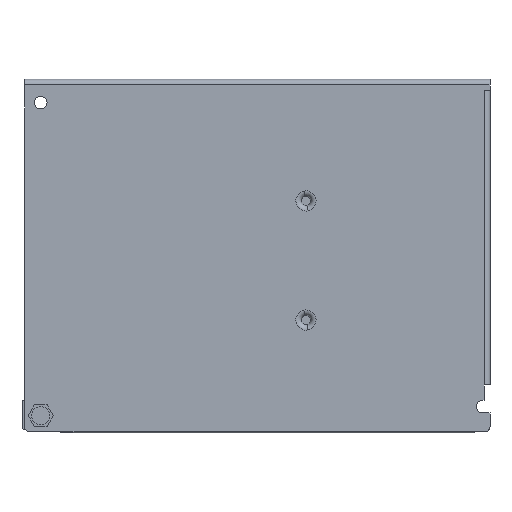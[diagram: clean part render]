
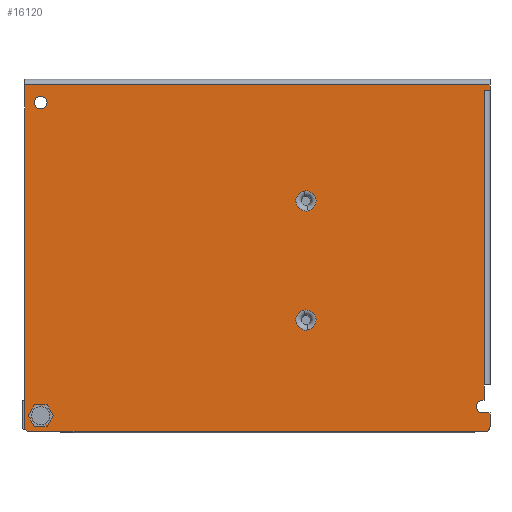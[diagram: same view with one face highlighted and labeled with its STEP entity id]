
A CAD part, front view. The second image highlights one B-rep face of the part: STEP entity #16120.
In plain terms, the highlighted planar face has unit normal (0, -1, 0).
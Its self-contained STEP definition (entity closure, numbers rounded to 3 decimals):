
#1850=CARTESIAN_POINT('',(-64.5,-1.5,-47.375));
#1860=VERTEX_POINT('',#1850);
#1890=CARTESIAN_POINT('',(-63.,-1.5,-47.375));
#1900=DIRECTION('',(0.,1.,0.));
#1910=DIRECTION('',(0.,0.,-1.));
#1920=AXIS2_PLACEMENT_3D('',#1890,#1900,#1910);
#1930=CIRCLE('',#1920,1.5);
#1940=CARTESIAN_POINT('',(-63.,-1.5,-48.875));
#1950=VERTEX_POINT('',#1940);
#1960=EDGE_CURVE('',#1950,#1860,#1930,.T.);
#2520=CARTESIAN_POINT('',(-64.5,-1.5,47.275));
#2530=VERTEX_POINT('',#2520);
#2560=CARTESIAN_POINT('',(-64.5,-1.5,47.275));
#2570=DIRECTION('',(0.,0.,-1.));
#2580=VECTOR('',#2570,1.);
#2590=LINE('',#2560,#2580);
#2600=EDGE_CURVE('',#2530,#1860,#2590,.T.);
#3170=CARTESIAN_POINT('',(64.5,-1.5,47.275));
#3180=VERTEX_POINT('',#3170);
#3230=CARTESIAN_POINT('',(64.5,-1.5,47.275));
#3240=DIRECTION('',(-1.,0.,0.));
#3250=VECTOR('',#3240,1.);
#3260=LINE('',#3230,#3250);
#3270=EDGE_CURVE('',#3180,#2530,#3260,.T.);
#11350=CARTESIAN_POINT('',(64.5,-1.5,45.775));
#11360=VERTEX_POINT('',#11350);
#11390=CARTESIAN_POINT('',(64.5,-1.5,45.775));
#11400=DIRECTION('',(0.,0.,1.));
#11410=VECTOR('',#11400,1.);
#11420=LINE('',#11390,#11410);
#11430=EDGE_CURVE('',#11360,#3180,#11420,.T.);
#13190=CARTESIAN_POINT('',(62.9,-1.5,45.775));
#13200=VERTEX_POINT('',#13190);
#13230=CARTESIAN_POINT('',(64.5,-1.5,45.775));
#13240=DIRECTION('',(-1.,0.,0.));
#13250=VECTOR('',#13240,1.);
#13260=LINE('',#13230,#13250);
#13270=EDGE_CURVE('',#11360,#13200,#13260,.T.);
#14700=CARTESIAN_POINT('',(62.9,-1.5,-35.875));
#14710=VERTEX_POINT('',#14700);
#14740=CARTESIAN_POINT('',(62.9,-1.5,-35.875));
#14750=DIRECTION('',(0.,0.,1.));
#14760=VECTOR('',#14750,1.);
#14770=LINE('',#14740,#14760);
#14780=EDGE_CURVE('',#14710,#13200,#14770,.T.);
#14830=CARTESIAN_POINT('',(0.,-1.5,0.));
#14840=DIRECTION('',(0.,1.,0.));
#14850=DIRECTION('',(1.,0.,0.));
#14860=AXIS2_PLACEMENT_3D('',#14830,#14840,#14850);
#14870=PLANE('',#14860);
#14880=ORIENTED_EDGE('',*,*,#2600,.T.);
#14890=ORIENTED_EDGE('',*,*,#3270,.T.);
#14900=ORIENTED_EDGE('',*,*,#11430,.T.);
#14910=ORIENTED_EDGE('',*,*,#13270,.F.);
#14920=ORIENTED_EDGE('',*,*,#14780,.T.);
#14930=CARTESIAN_POINT('',(62.9,-1.5,-40.125));
#14940=DIRECTION('',(0.,0.,1.));
#14950=VECTOR('',#14940,1.);
#14960=LINE('',#14930,#14950);
#14970=CARTESIAN_POINT('',(62.9,-1.5,-40.125));
#14980=VERTEX_POINT('',#14970);
#14990=EDGE_CURVE('',#14980,#14710,#14960,.T.);
#15000=ORIENTED_EDGE('',*,*,#14990,.T.);
#15010=CARTESIAN_POINT('',(62.5,-1.5,-40.125));
#15020=DIRECTION('',(1.,0.,0.));
#15030=VECTOR('',#15020,1.);
#15040=LINE('',#15010,#15030);
#15050=CARTESIAN_POINT('',(62.5,-1.5,-40.125));
#15060=VERTEX_POINT('',#15050);
#15070=EDGE_CURVE('',#15060,#14980,#15040,.T.);
#15080=ORIENTED_EDGE('',*,*,#15070,.T.);
#15090=CARTESIAN_POINT('',(62.5,-1.5,-41.875));
#15100=DIRECTION('',(0.,-1.,0.));
#15110=DIRECTION('',(0.,0.,1.));
#15120=AXIS2_PLACEMENT_3D('',#15090,#15100,#15110);
#15130=CIRCLE('',#15120,1.75);
#15140=CARTESIAN_POINT('',(62.5,-1.5,-43.625));
#15150=VERTEX_POINT('',#15140);
#15160=EDGE_CURVE('',#15060,#15150,#15130,.T.);
#15170=ORIENTED_EDGE('',*,*,#15160,.F.);
#15180=CARTESIAN_POINT('',(62.5,-1.5,-43.625));
#15190=DIRECTION('',(1.,0.,0.));
#15200=VECTOR('',#15190,1.);
#15210=LINE('',#15180,#15200);
#15220=CARTESIAN_POINT('',(64.5,-1.5,-43.625));
#15230=VERTEX_POINT('',#15220);
#15240=EDGE_CURVE('',#15150,#15230,#15210,.T.);
#15250=ORIENTED_EDGE('',*,*,#15240,.F.);
#15260=CARTESIAN_POINT('',(64.5,-1.5,-47.375));
#15270=DIRECTION('',(0.,0.,1.));
#15280=VECTOR('',#15270,1.);
#15290=LINE('',#15260,#15280);
#15300=CARTESIAN_POINT('',(64.5,-1.5,-47.375));
#15310=VERTEX_POINT('',#15300);
#15320=EDGE_CURVE('',#15310,#15230,#15290,.T.);
#15330=ORIENTED_EDGE('',*,*,#15320,.T.);
#15340=CARTESIAN_POINT('',(63.,-1.5,-47.375));
#15350=DIRECTION('',(-0.,1.,0.));
#15360=DIRECTION('',(1.,0.,0.));
#15370=AXIS2_PLACEMENT_3D('',#15340,#15350,#15360);
#15380=CIRCLE('',#15370,1.5);
#15390=CARTESIAN_POINT('',(63.,-1.5,-48.875));
#15400=VERTEX_POINT('',#15390);
#15410=EDGE_CURVE('',#15310,#15400,#15380,.T.);
#15420=ORIENTED_EDGE('',*,*,#15410,.F.);
#15430=CARTESIAN_POINT('',(-63.,-1.5,-48.875));
#15440=DIRECTION('',(1.,0.,0.));
#15450=VECTOR('',#15440,1.);
#15460=LINE('',#15430,#15450);
#15470=EDGE_CURVE('',#1950,#15400,#15460,.T.);
#15480=ORIENTED_EDGE('',*,*,#15470,.T.);
#15490=ORIENTED_EDGE('',*,*,#1960,.F.);
#15500=EDGE_LOOP('',(#15490,#15480,#15420,#15330,#15250,#15170,#15080,
#15000,#14920,#14910,#14900,#14890,#14880));
#15510=FACE_OUTER_BOUND('',#15500,.T.);
#15520=CARTESIAN_POINT('',(-60.,-1.5,-44.375));
#15530=DIRECTION('',(0.,-1.,-0.));
#15540=DIRECTION('',(0.,0.,-1.));
#15550=AXIS2_PLACEMENT_3D('',#15520,#15530,#15540);
#15560=CIRCLE('',#15550,2.5);
#15570=CARTESIAN_POINT('',(-60.,-1.5,-46.875));
#15580=VERTEX_POINT('',#15570);
#15590=CARTESIAN_POINT('',(-60.,-1.5,-41.875));
#15600=VERTEX_POINT('',#15590);
#15610=EDGE_CURVE('',#15580,#15600,#15560,.T.);
#15620=ORIENTED_EDGE('',*,*,#15610,.F.);
#15630=EDGE_CURVE('',#15600,#15580,#15560,.T.);
#15640=ORIENTED_EDGE('',*,*,#15630,.F.);
#15650=EDGE_LOOP('',(#15640,#15620));
#15660=FACE_BOUND('',#15650,.T.);
#15670=CARTESIAN_POINT('',(-60.,-1.5,42.375));
#15680=DIRECTION('',(0.,-1.,-0.));
#15690=DIRECTION('',(0.,0.,-1.));
#15700=AXIS2_PLACEMENT_3D('',#15670,#15680,#15690);
#15710=CIRCLE('',#15700,1.75);
#15720=CARTESIAN_POINT('',(-60.,-1.5,44.125));
#15730=VERTEX_POINT('',#15720);
#15740=CARTESIAN_POINT('',(-60.,-1.5,40.625));
#15750=VERTEX_POINT('',#15740);
#15760=EDGE_CURVE('',#15730,#15750,#15710,.T.);
#15770=ORIENTED_EDGE('',*,*,#15760,.F.);
#15780=EDGE_CURVE('',#15750,#15730,#15710,.T.);
#15790=ORIENTED_EDGE('',*,*,#15780,.F.);
#15800=EDGE_LOOP('',(#15790,#15770));
#15810=FACE_BOUND('',#15800,.T.);
#15820=CARTESIAN_POINT('',(13.5,-1.5,15.125));
#15830=DIRECTION('',(0.,-1.,-0.));
#15840=DIRECTION('',(0.,0.,-1.));
#15850=AXIS2_PLACEMENT_3D('',#15820,#15830,#15840);
#15860=CIRCLE('',#15850,2.8);
#15870=CARTESIAN_POINT('',(12.938,-1.5,17.868));
#15880=VERTEX_POINT('',#15870);
#15890=CARTESIAN_POINT('',(14.062,-1.5,12.382));
#15900=VERTEX_POINT('',#15890);
#15910=EDGE_CURVE('',#15880,#15900,#15860,.T.);
#15920=ORIENTED_EDGE('',*,*,#15910,.F.);
#15930=EDGE_CURVE('',#15900,#15880,#15860,.T.);
#15940=ORIENTED_EDGE('',*,*,#15930,.F.);
#15950=EDGE_LOOP('',(#15940,#15920));
#15960=FACE_BOUND('',#15950,.T.);
#15970=CARTESIAN_POINT('',(13.5,-1.5,-17.875));
#15980=DIRECTION('',(0.,-1.,-0.));
#15990=DIRECTION('',(0.,0.,-1.));
#16000=AXIS2_PLACEMENT_3D('',#15970,#15980,#15990);
#16010=CIRCLE('',#16000,2.8);
#16020=CARTESIAN_POINT('',(12.938,-1.5,-15.132));
#16030=VERTEX_POINT('',#16020);
#16040=CARTESIAN_POINT('',(14.062,-1.5,-20.618));
#16050=VERTEX_POINT('',#16040);
#16060=EDGE_CURVE('',#16030,#16050,#16010,.T.);
#16070=ORIENTED_EDGE('',*,*,#16060,.F.);
#16080=EDGE_CURVE('',#16050,#16030,#16010,.T.);
#16090=ORIENTED_EDGE('',*,*,#16080,.F.);
#16100=EDGE_LOOP('',(#16090,#16070));
#16110=FACE_BOUND('',#16100,.T.);
#16120=ADVANCED_FACE('',(#15510,#15660,#15810,#15960,#16110),#14870,.F.)
;
